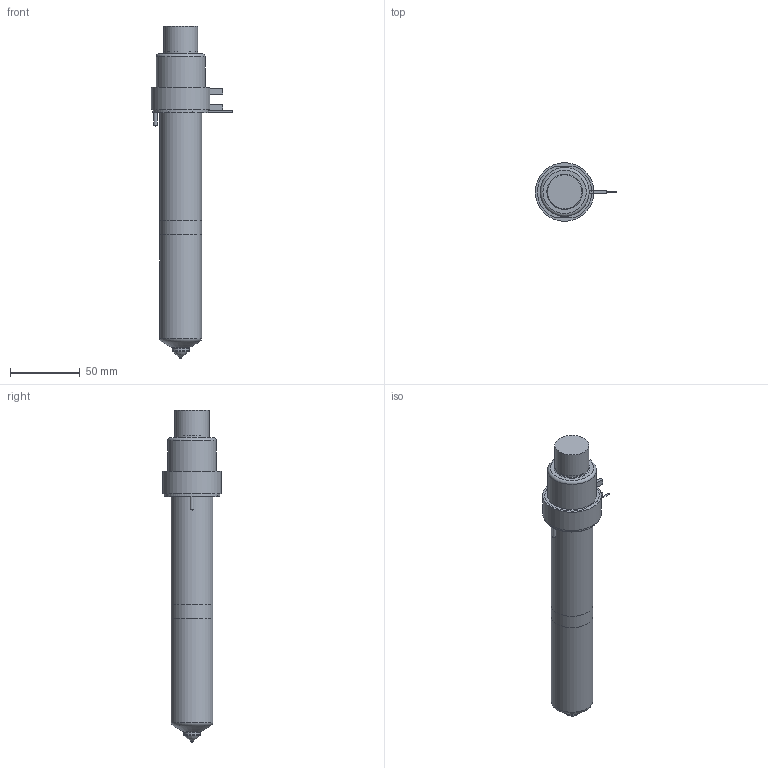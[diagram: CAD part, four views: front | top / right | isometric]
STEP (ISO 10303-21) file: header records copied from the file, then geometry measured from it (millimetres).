
FILE_DESCRIPTION(/* description */ (''),/* implementation_level */ '2;1');
FILE_NAME(/* name */ 'SXOT16175_200C_b',/* time_stamp */ '2007-01-24T17:15:06+13:00',/* author */ (''),/* organization */ (''),/* preprocessor_version */ 'ST-DEVELOPER v9',/* originating_system */ 'UGS - NX 4.0',/* authorisation */ '');
FILE_SCHEMA (('CONFIG_CONTROL_DESIGN'));
Length unit declared in the file: millimetre
Products named in the file (1): SXOT16175_200C_b
Bounding box: 58.25 x 42 x 237.66 mm (x, y, z)
Volume: 305726.7 mm3; surface area: 49698.8 mm2
Topology: 7 solids, 7 shells, 100 faces, 195 edges, 124 vertices
Faces by surface type: plane 46, cylinder 30, cone 11, torus 10, bspline 3
Full cylindrical faces by diameter (mm): 1 x4, 2.5 x2, 7 x1, 7.8 x1, 8 x1, 11.61 x1, 12.01 x2, 14.8 x1, 24 x1, 24.4 x1, 25.4 x1, 30 x2, 31.8 x1, 35 x1, 40 x1, 42 x1
Entity records: 2456 total; most frequent: CARTESIAN_POINT 516, DIRECTION 410, ORIENTED_EDGE 284, AXIS2_PLACEMENT_3D 180, EDGE_LOOP 158, EDGE_CURVE 142, VERTEX_POINT 115, ADVANCED_FACE 100
